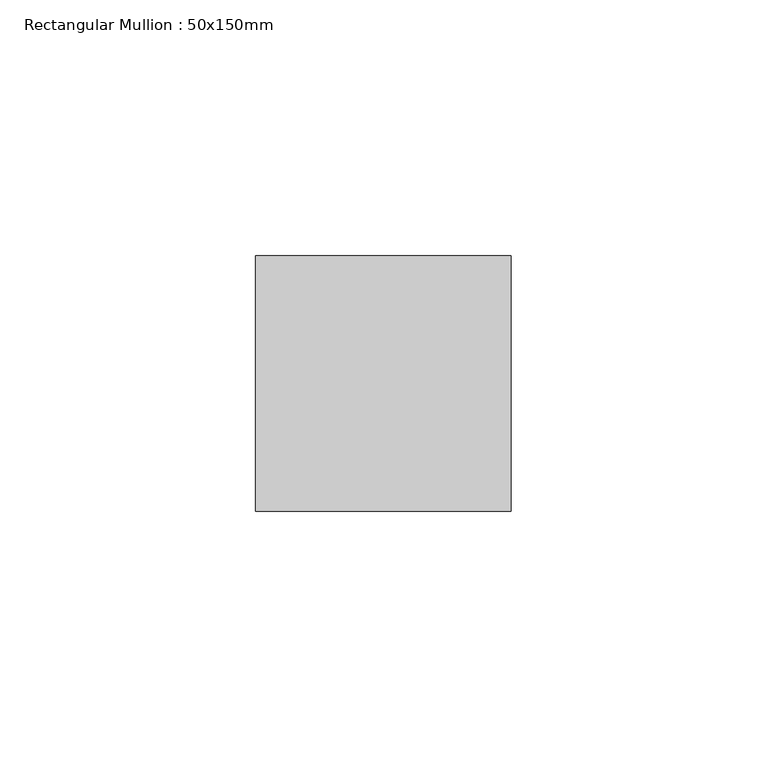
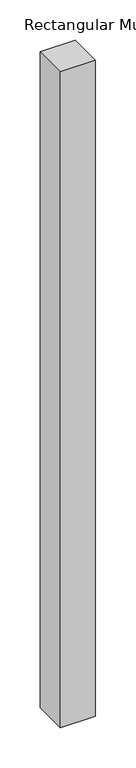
"""IFC4 building model written with IfcOpenShell, lengths in millimetres: member geometry, Rectangular Mullion : 50x150mm."""

from ifc_helpers import new_model, si_unit, frame, origin, place, context, project, spatial, polyline, outline, extrude, source, transform, mapped, element, save


def rectangular_mullion_50x150mm_b4659898(model_context):
    return source(origin(), model_context, "Body", "SweptSolid", [
        extrude(outline(polyline([(0.0, 25.0), (0.0, -25.0), (-50.0, -25.0), (-50.0, 25.0), (0.0, 25.0)])), frame((0.0, 0.0, -993.2523063), z_axis=(0.0, 0.0, 1.0), x_axis=(1.0, 0.0, 0.0)), (0.0, 0.0, 1.0), 993.2523063),
    ])


if __name__ == "__main__":
    model = new_model("IFC4")
    model_context = context("Model", 3, world=origin())
    ifc_project = project(units=[si_unit("LENGTHUNIT", "METRE", prefix="MILLI")], contexts=[model_context])
    site = spatial("IfcSite", under=ifc_project)
    building = spatial("IfcBuilding", under=site)
    placement = place(None, origin())
    rectangular_mullion_50x150mm_shape = rectangular_mullion_50x150mm_b4659898(model_context)
    element("IfcMember", 1, ObjectType="Rectangular Mullion : 50x150mm", at=placement, inside=building, context=model_context, shape_type="MappedRepresentation", body=[
        mapped(rectangular_mullion_50x150mm_shape, transform((0.0, 0.0, 0.0), x_axis=(1.0, 0.0, 0.0), y_axis=(0.0, 1.0, 0.0), z_axis=(0.0, 0.0, 1.0))),
    ])
    save(model, "model.ifc")
